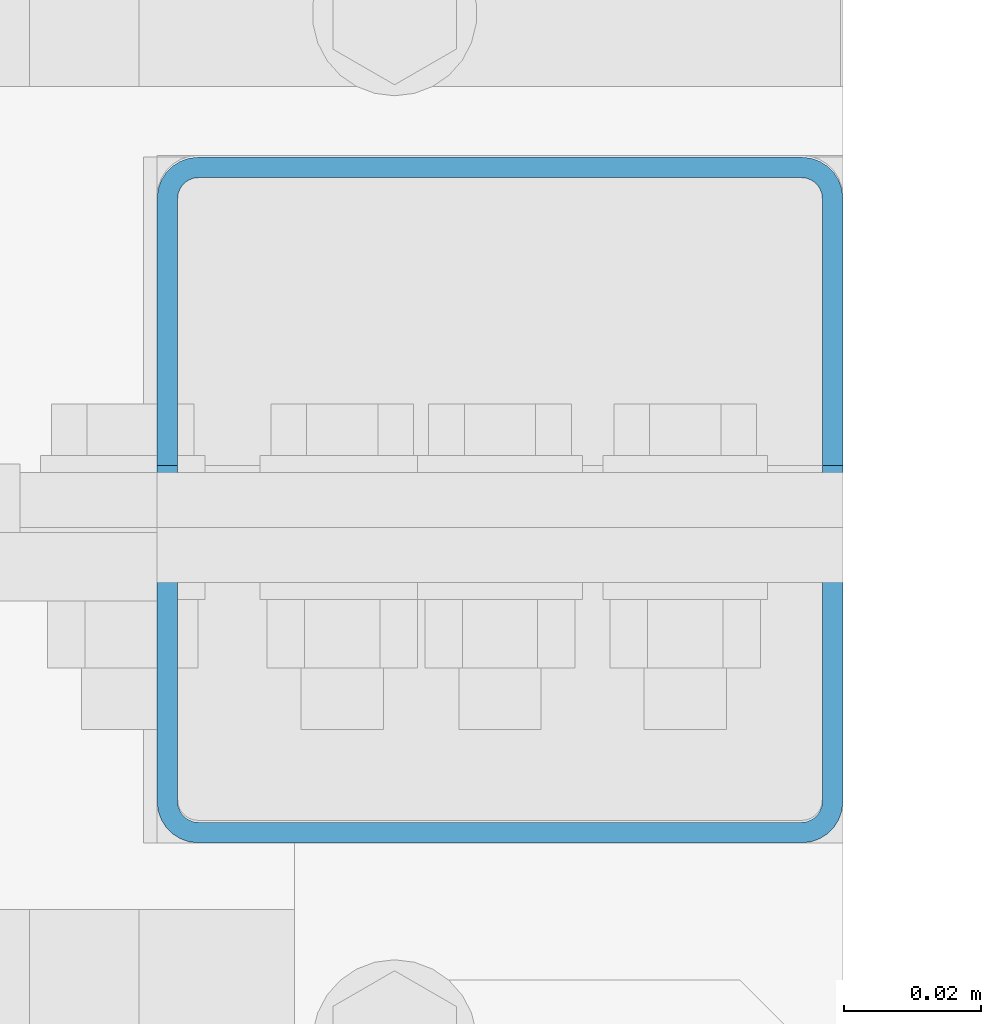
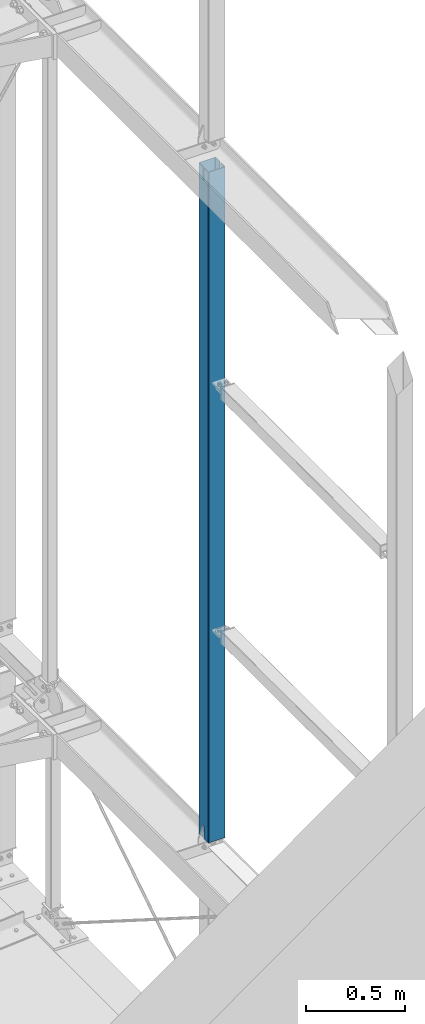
# One storey, part 48 of 271: 1 beam, 1 element without a shape of its own.
"""IFC2X3 building model written with IfcOpenShell, lengths in millimetres."""

import ifcopenshell
import ifcopenshell.guid

model = None  # the IFC model being written
_history = None  # IfcOwnerHistory: only IFC2X3 demands one
_inside = {}  # id of a spatial element -> (the spatial element, [elements in it])
_under = {}  # id of a project, library or spatial element -> (it, [spatial elements below it])
_declared = {}  # id of a project -> (the project, [libraries it declares])
_typed = {}  # id of a type object -> (the type object, [elements of that type])
_made_of = {}  # id of a material, layer set ... -> (it, [elements and type objects made of it])


def new_model(schema):
    """Start an empty IFC model of exactly this schema.

    Asked for "IFC4X3", IfcOpenShell would pick the latest addendum, in which some entities
    have other attributes; the version numbers below select the first issue.
    IFC2X3 requires an IfcOwnerHistory on every rooted entity: one is made here for all.
    """
    global model, _history
    if schema == "IFC4X3":
        model = ifcopenshell.file(schema_version=(4, 3, 0, 0))
    else:
        model = ifcopenshell.file(schema=schema)
    _inside.clear()
    _under.clear()
    _declared.clear()
    _typed.clear()
    _made_of.clear()
    _history = None
    if model.schema == "IFC2X3":
        org = make("IfcOrganization", Name="unknown")
        user = make(
            "IfcPersonAndOrganization",
            ThePerson=make("IfcPerson", FamilyName="unknown"),
            TheOrganization=org,
        )
        app = make(
            "IfcApplication",
            ApplicationDeveloper=org,
            Version="unknown",
            ApplicationFullName="unknown",
            ApplicationIdentifier="unknown",
        )
        _history = make(
            "IfcOwnerHistory",
            OwningUser=user,
            OwningApplication=app,
            ChangeAction="ADDED",
            CreationDate=0,
        )
    return model


def make(cls, **values):
    """One entity of the class cls with the attributes given. An attribute that is None is left unset."""
    return model.create_entity(
        cls, **{name: value for name, value in values.items() if value is not None}
    )


def rooted(cls, **values):
    """An entity with a GlobalId (a new one), such as an element, a storey or a relation."""
    return make(cls, GlobalId=ifcopenshell.guid.new(), OwnerHistory=_history, **values)


def si_unit(unit_type, name, prefix=None):
    """IfcSIUnit, for example si_unit("LENGTHUNIT", "METRE", prefix="MILLI")."""
    return make("IfcSIUnit", UnitType=unit_type, Prefix=prefix, Name=name)


def assignment(units):
    """IfcUnitAssignment: the units of a project."""
    return None if units is None else make("IfcUnitAssignment", Units=units)


def point(xyz):
    """IfcCartesianPoint."""
    return None if xyz is None else make("IfcCartesianPoint", Coordinates=xyz)


def direction(xyz):
    """IfcDirection."""
    return None if xyz is None else make("IfcDirection", DirectionRatios=xyz)


def frame(location, z_axis=None, x_axis=None):
    """IfcAxis2Placement3D, a coordinate frame: its origin and axes. An axis left out is left unset."""
    return make(
        "IfcAxis2Placement3D",
        Location=point(location),
        Axis=direction(z_axis),
        RefDirection=direction(x_axis),
    )


def frame_2d(location, x_axis=None):
    """IfcAxis2Placement2D, a coordinate frame in the plane: its origin and x axis."""
    return make(
        "IfcAxis2Placement2D", Location=point(location), RefDirection=direction(x_axis)
    )


def origin_with_axes():
    """The frame at (0, 0, 0) with the z axis (0, 0, 1) and the x axis (1, 0, 0) written out."""
    return frame((0.0, 0.0, 0.0), z_axis=(0.0, 0.0, 1.0), x_axis=(1.0, 0.0, 0.0))


def origin_2d_with_axis():
    """The frame at (0, 0) in the plane with the x axis (1, 0) written out."""
    return frame_2d((0.0, 0.0), x_axis=(1.0, 0.0))


def place(relative_to, where):
    """IfcLocalPlacement: puts the frame where relative to a parent placement (None: the world)."""
    return make(
        "IfcLocalPlacement", PlacementRelTo=relative_to, RelativePlacement=where
    )


def context(
    kind, dimensions, precision=None, world=None, true_north=None, identifier=None
):
    """IfcGeometricRepresentationContext, for example the 3D "Model" context."""
    return make(
        "IfcGeometricRepresentationContext",
        ContextIdentifier=identifier,
        ContextType=kind,
        CoordinateSpaceDimension=dimensions,
        Precision=precision,
        WorldCoordinateSystem=world,
        TrueNorth=true_north,
    )


def subcontext(parent, identifier, kind, view, scale=None):
    """IfcGeometricRepresentationSubContext, for example "Body" below "Model"."""
    return make(
        "IfcGeometricRepresentationSubContext",
        ContextIdentifier=identifier,
        ContextType=kind,
        ParentContext=parent,
        TargetScale=scale,
        TargetView=view,
    )


def project(units=None, contexts=None):
    """IfcProject with its units and contexts."""
    return rooted(
        "IfcProject",
        Name="project",
        RepresentationContexts=contexts,
        UnitsInContext=assignment(units),
    )


def spatial(cls, under=None, at=None, **own):
    """A site, building, storey or space (cls), placed at a placement, below another one or the project."""
    s = rooted(cls, ObjectPlacement=at, **own)
    if under is not None:
        _under.setdefault(under.id(), (under, []))[1].append(s)
    return s


def polyline(points):
    """IfcPolyline through the points."""
    return make("IfcPolyline", Points=[point(p) for p in points])


def profile(cls, at=None, kind="AREA", **sizes):
    """A parametric profile (cls). Its sizes go by their IFC names, for example OverallWidth=200.0."""
    return make(cls, ProfileType=kind, Position=at, **sizes)


def hollow_rectangle(**sizes):
    """IfcRectangleHollowProfileDef."""
    return profile("IfcRectangleHollowProfileDef", **sizes)


def outline(outer, holes=None, kind="AREA"):
    """IfcArbitraryClosedProfileDef: a profile drawn as a closed curve; with holes, ...WithVoids."""
    if holes is None:
        return make("IfcArbitraryClosedProfileDef", ProfileType=kind, OuterCurve=outer)
    return make(
        "IfcArbitraryProfileDefWithVoids",
        ProfileType=kind,
        OuterCurve=outer,
        InnerCurves=holes,
    )


def extrude(swept, where, along, depth):
    """IfcExtrudedAreaSolid: the profile swept, set in the frame where, extruded along a direction by depth."""
    return make(
        "IfcExtrudedAreaSolid",
        SweptArea=swept,
        Position=where,
        ExtrudedDirection=direction(along),
        Depth=depth,
    )


def boolean(op, a, b):
    """IfcBooleanResult of two solids."""
    return make("IfcBooleanResult", Operator=op, FirstOperand=a, SecondOperand=b)


def halfspace(plane, agree):
    """IfcHalfSpaceSolid: all space on one side of the plane z = 0 of the frame plane."""
    return make(
        "IfcHalfSpaceSolid",
        BaseSurface=make("IfcPlane", Position=plane),
        AgreementFlag=agree,
    )


def shape(context_of_items, identifier, shape_type, items):
    """IfcShapeRepresentation: the items that make up one representation, for example the "Body"."""
    return make(
        "IfcShapeRepresentation",
        ContextOfItems=context_of_items,
        RepresentationIdentifier=identifier,
        RepresentationType=shape_type,
        Items=items,
    )


def material(Name=None, Category=None):
    """IfcMaterial."""
    return make("IfcMaterial", Name=Name, Category=Category)


def made_of(thing, what):
    """Note that an element or type object is made of a material, layer set ...; save() writes the relation."""
    if what is not None:
        _made_of.setdefault(what.id(), (what, []))[1].append(thing)
    return thing


def type_object(cls, material=None, **own):
    """A type object (cls), such as IfcWallType, which elements share."""
    return made_of(rooted(cls, **own), material)


def element(
    cls,
    number,
    at=None,
    inside=None,
    cuts=None,
    type_object=None,
    material=None,
    context=None,
    identifier="Body",
    shape_type=None,
    held_by="IfcProductDefinitionShape",
    body=None,
    shapes=None,
    **own,
):
    """One element of the class cls, such as IfcWall. Its Tag is "e" and its number.

    at: its placement. inside: the storey or other place that contains it. cuts: it is an
    opening in that element (IfcRelVoidsElement). A single representation is given by context,
    identifier, shape_type and body (its items); several are given by shapes. held_by: the class
    of the entity that holds the representations. save() writes the other relations.
    """
    e = rooted(cls, Tag="e%d" % number, ObjectPlacement=at, **own)
    if body is not None:
        shapes = [shape(context, identifier, shape_type, body)]
    if shapes is not None:
        e.Representation = make(held_by, Representations=shapes)
    if inside is not None:
        _inside.setdefault(inside.id(), (inside, []))[1].append(e)
    if cuts is not None:
        rooted(
            "IfcRelVoidsElement", RelatingBuildingElement=cuts, RelatedOpeningElement=e
        )
    if type_object is not None:
        _typed.setdefault(type_object.id(), (type_object, []))[1].append(e)
    return made_of(e, material)


def aggregate(whole, parts):
    """IfcRelAggregates: a whole, such as a stair, and the parts it consists of."""
    return rooted("IfcRelAggregates", RelatingObject=whole, RelatedObjects=parts)


def save(model, path):
    """Write the relations noted so far, then the file.

    IfcRelAggregates (storeys below a building ...), IfcRelContainedInSpatialStructure (elements
    in a storey), IfcRelDefinesByType, IfcRelAssociatesMaterial and IfcRelDeclares: one each for
    every whole, place, type object, material and project.
    """
    for whole, parts in _under.values():
        aggregate(whole, parts)
    for where, things in _inside.values():
        rooted(
            "IfcRelContainedInSpatialStructure",
            RelatedElements=things,
            RelatingStructure=where,
        )
    for kind, things in _typed.values():
        rooted("IfcRelDefinesByType", RelatedObjects=things, RelatingType=kind)
    for what, things in _made_of.values():
        rooted("IfcRelAssociatesMaterial", RelatedObjects=things, RelatingMaterial=what)
    for by, libraries in _declared.values():
        rooted("IfcRelDeclares", RelatingContext=by, RelatedDefinitions=libraries)
    model.write(path)


model = new_model("IFC2X3")

# Units and contexts
model_context = context("Model", 3, precision=1e-05, world=origin_with_axes())
body_context = subcontext(model_context, "Body", "Model", "MODEL_VIEW")
ifc_project = project(units=[si_unit("LENGTHUNIT", "METRE", prefix="MILLI"), si_unit("AREAUNIT", "SQUARE_METRE"), si_unit("VOLUMEUNIT", "CUBIC_METRE"), si_unit("MASSUNIT", "GRAM", prefix="KILO"), si_unit("TIMEUNIT", "SECOND"), si_unit("PLANEANGLEUNIT", "RADIAN"), si_unit("SOLIDANGLEUNIT", "STERADIAN"), si_unit("THERMODYNAMICTEMPERATUREUNIT", "DEGREE_CELSIUS"), si_unit("LUMINOUSINTENSITYUNIT", "LUMEN")], contexts=[model_context])

# Site, building, storey
site_placement = place(None, origin_with_axes())
site = spatial("IfcSite", under=ifc_project, at=site_placement, Name="Undefined", CompositionType="ELEMENT")
building_placement = place(site_placement, origin_with_axes())
building = spatial("IfcBuilding", under=site, at=building_placement, Name="Undefined", CompositionType="ELEMENT")
storey_placement = place(building_placement, origin_with_axes())
storey = spatial("IfcBuildingStorey", under=building, at=storey_placement, Name="Undefined", CompositionType="ELEMENT", Elevation=0.0)

# Assembly, beam
assembly_placement = place(storey_placement, origin_with_axes())
assembly = element("IfcElementAssembly", 1, at=assembly_placement, inside=storey, AssemblyPlace="NOTDEFINED", PredefinedType="RIGID_FRAME")
ifc_material = material(Name="STEEL/S355JR")
beam_type = type_object("IfcBeamType", Name="SHS100*3", PredefinedType="NOTDEFINED")
beam_placement = place(assembly_placement, frame((12658.3756870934, 2799.05211980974, 1451.84999990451), z_axis=(0.0, 1.0, 0.0), x_axis=(0.0, 0.0, 1.0)))
beam = element("IfcBeam", 2, at=beam_placement, type_object=beam_type, material=ifc_material, Name="RYGIEL", ObjectType="SHS100*3", context=body_context, shape_type="CSG", body=[
    boolean("DIFFERENCE", boolean("DIFFERENCE", boolean("DIFFERENCE", extrude(hollow_rectangle(XDim=100.0, YDim=100.0, WallThickness=3.0, InnerFilletRadius=3.0, OuterFilletRadius=6.0, at=origin_2d_with_axis()), frame((4141.0, 0.0, 0.0), z_axis=(-1.0, 0.0, 1.38777878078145e-17), x_axis=(0.0, -1.0, 0.0)), (0.0, 0.0, 1.0), 4141.0), extrude(outline(polyline([(0.0, 40.0), (80.0, 0.0), (151.0, -1.91135995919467e-12), (151.0, 120.0), (91.0, 120.0), (91.0, 150.0), (1.4210854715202e-14, 150.0), (0.0, 40.0)])), frame((4064.0, -99.9999999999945, -4.99999999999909), z_axis=(0.0, 0.0, 1.0), x_axis=(1.0, 0.0, 0.0)), (0.0, 0.0, 1.0), 10.0)), extrude(outline(polyline([(0.0, 40.0), (80.0, 0.0), (151.0, -1.91135995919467e-12), (151.0, 120.0), (91.0, 120.0), (91.0, 150.0), (1.4210854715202e-14, 150.0), (0.0, 40.0)])), frame((81.0000000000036, -99.9999999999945, 5.00000000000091), z_axis=(0.0, 0.0, -1.0), x_axis=(-1.0, 0.0, 1.38777878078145e-17)), (0.0, 0.0, 1.0), 10.0)), halfspace(frame((4.0, 0.0, -50.0), z_axis=(1.0, 0.0, 0.0), x_axis=(0.0, 0.0, 1.0)), True)),
])
aggregate(assembly, [beam])

save(model, "model.ifc")
